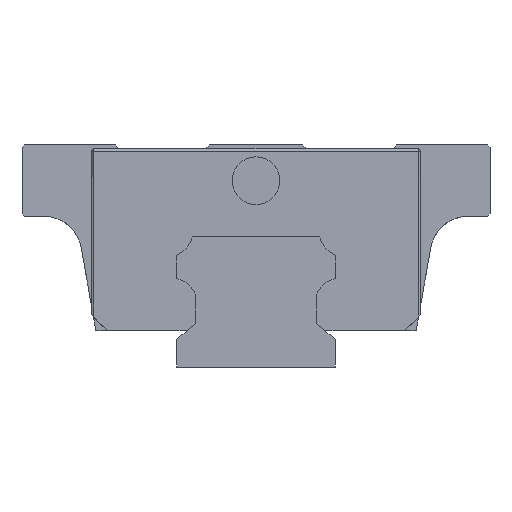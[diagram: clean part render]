
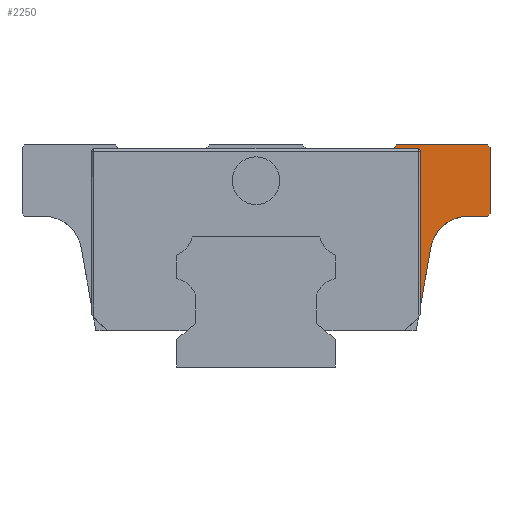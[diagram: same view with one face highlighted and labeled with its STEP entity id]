
A CAD part, left-side view. The second image highlights one B-rep face of the part: STEP entity #2250.
In plain terms, the highlighted planar face has unit normal (-1, 0, 0).
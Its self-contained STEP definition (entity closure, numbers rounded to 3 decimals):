
#41 = CARTESIAN_POINT ( 'NONE',  ( -23.35, -20.75, 7.78 ) ) ;
#90 = CARTESIAN_POINT ( 'NONE',  ( -23.35, -20.189, 4.6 ) ) ;
#135 = AXIS2_PLACEMENT_3D ( 'NONE', #570, #2914, #4098 ) ;
#137 = VECTOR ( 'NONE', #3779, 1000. ) ;
#488 = LINE ( 'NONE', #3536, #6977 ) ;
#507 = ORIENTED_EDGE ( 'NONE', *, *, #3790, .T. ) ;
#523 = ORIENTED_EDGE ( 'NONE', *, *, #4704, .T. ) ;
#565 = VECTOR ( 'NONE', #836, 1000. ) ;
#570 = CARTESIAN_POINT ( 'NONE',  ( -23.35, -26.714, 14.25 ) ) ;
#604 = VERTEX_POINT ( 'NONE', #4170 ) ;
#695 = ORIENTED_EDGE ( 'NONE', *, *, #5575, .T. ) ;
#764 = LINE ( 'NONE', #7234, #565 ) ;
#775 = LINE ( 'NONE', #90, #3517 ) ;
#777 = VERTEX_POINT ( 'NONE', #3179 ) ;
#836 = DIRECTION ( 'NONE',  ( 0., 0.643, -0.766 ) ) ;
#889 = ORIENTED_EDGE ( 'NONE', *, *, #7443, .T. ) ;
#937 = VECTOR ( 'NONE', #3905, 1000. ) ;
#966 = CARTESIAN_POINT ( 'NONE',  ( -23.35, -29.5, 28. ) ) ;
#1011 = ORIENTED_EDGE ( 'NONE', *, *, #3873, .T. ) ;
#1089 = DIRECTION ( 'NONE',  ( 0., -0.174, 0.985 ) ) ;
#1160 = ORIENTED_EDGE ( 'NONE', *, *, #5895, .F. ) ;
#1168 = EDGE_CURVE ( 'NONE', #1375, #7150, #2628, .T. ) ;
#1182 = CARTESIAN_POINT ( 'NONE',  ( -23.35, -17.28, 27.5 ) ) ;
#1259 = CARTESIAN_POINT ( 'NONE',  ( -23.35, -17.7, 28. ) ) ;
#1375 = VERTEX_POINT ( 'NONE', #41 ) ;
#1566 = CARTESIAN_POINT ( 'NONE',  ( -23.35, -29.205, 19. ) ) ;
#1632 = LINE ( 'NONE', #3224, #937 ) ;
#1821 = ORIENTED_EDGE ( 'NONE', *, *, #2142, .T. ) ;
#2005 = AXIS2_PLACEMENT_3D ( 'NONE', #4754, #4293, #3107 ) ;
#2110 = CARTESIAN_POINT ( 'NONE',  ( -23.35, -26.714, 19. ) ) ;
#2122 = VERTEX_POINT ( 'NONE', #1182 ) ;
#2142 = EDGE_CURVE ( 'NONE', #777, #5076, #2829, .T. ) ;
#2250 = ADVANCED_FACE ( 'NONE', ( #2451 ), #5441, .T. ) ;
#2268 = VECTOR ( 'NONE', #2959, 1000. ) ;
#2388 = VERTEX_POINT ( 'NONE', #6815 ) ;
#2451 = FACE_OUTER_BOUND ( 'NONE', #5754, .T. ) ;
#2539 = VERTEX_POINT ( 'NONE', #5124 ) ;
#2628 = LINE ( 'NONE', #5999, #137 ) ;
#2829 = CIRCLE ( 'NONE', #135, 4.75 ) ;
#2914 = DIRECTION ( 'NONE',  ( 1., 0., 0. ) ) ;
#2959 = DIRECTION ( 'NONE',  ( 0., 1., 0. ) ) ;
#2972 = EDGE_CURVE ( 'NONE', #604, #2539, #5453, .T. ) ;
#3033 = LINE ( 'NONE', #4174, #5205 ) ;
#3107 = DIRECTION ( 'NONE',  ( 0., 0., 1. ) ) ;
#3125 = CIRCLE ( 'NONE', #3976, 0.295 ) ;
#3179 = CARTESIAN_POINT ( 'NONE',  ( -23.35, -22.036, 15.075 ) ) ;
#3224 = CARTESIAN_POINT ( 'NONE',  ( -23.35, -22.728, 19. ) ) ;
#3245 = CARTESIAN_POINT ( 'NONE',  ( -23.35, -20.455, 27.205 ) ) ;
#3417 = EDGE_CURVE ( 'NONE', #7273, #7138, #488, .T. ) ;
#3463 = VERTEX_POINT ( 'NONE', #1259 ) ;
#3517 = VECTOR ( 'NONE', #1089, 1000. ) ;
#3536 = CARTESIAN_POINT ( 'NONE',  ( -23.35, -11.773, 1.568 ) ) ;
#3730 = DIRECTION ( 'NONE',  ( 0., 0.707, 0.707 ) ) ;
#3779 = DIRECTION ( 'NONE',  ( 0., 0., 1. ) ) ;
#3790 = EDGE_CURVE ( 'NONE', #3463, #2122, #764, .T. ) ;
#3873 = EDGE_CURVE ( 'NONE', #5076, #7273, #1632, .T. ) ;
#3905 = DIRECTION ( 'NONE',  ( 0., -1., 0. ) ) ;
#3976 = AXIS2_PLACEMENT_3D ( 'NONE', #3245, #6220, #7334 ) ;
#4045 = ORIENTED_EDGE ( 'NONE', *, *, #3417, .T. ) ;
#4098 = DIRECTION ( 'NONE',  ( 0., 0., 1. ) ) ;
#4170 = CARTESIAN_POINT ( 'NONE',  ( -23.35, -29.5, 27.705 ) ) ;
#4174 = CARTESIAN_POINT ( 'NONE',  ( -23.35, -29.5, 19. ) ) ;
#4293 = DIRECTION ( 'NONE',  ( -1., 0., 0. ) ) ;
#4704 = EDGE_CURVE ( 'NONE', #2539, #3463, #5003, .T. ) ;
#4754 = CARTESIAN_POINT ( 'NONE',  ( -23.35, -8.741, 4.6 ) ) ;
#4829 = ORIENTED_EDGE ( 'NONE', *, *, #1168, .F. ) ;
#4914 = CARTESIAN_POINT ( 'NONE',  ( -23.35, -29.5, 19.295 ) ) ;
#5003 = LINE ( 'NONE', #966, #6188 ) ;
#5076 = VERTEX_POINT ( 'NONE', #2110 ) ;
#5124 = CARTESIAN_POINT ( 'NONE',  ( -23.35, -29.205, 28. ) ) ;
#5205 = VECTOR ( 'NONE', #5286, 1000. ) ;
#5220 = LINE ( 'NONE', #5296, #2268 ) ;
#5286 = DIRECTION ( 'NONE',  ( 0., 0., 1. ) ) ;
#5296 = CARTESIAN_POINT ( 'NONE',  ( -23.35, -20.542, 27.5 ) ) ;
#5441 = PLANE ( 'NONE',  #2005 ) ;
#5453 = LINE ( 'NONE', #6640, #7231 ) ;
#5575 = EDGE_CURVE ( 'NONE', #1375, #777, #775, .T. ) ;
#5754 = EDGE_LOOP ( 'NONE', ( #507, #1160, #7380, #4829, #695, #1821, #1011, #4045, #889, #7464, #523 ) ) ;
#5895 = EDGE_CURVE ( 'NONE', #2388, #2122, #5220, .T. ) ;
#5999 = CARTESIAN_POINT ( 'NONE',  ( -23.35, -20.75, 6.6 ) ) ;
#6188 = VECTOR ( 'NONE', #6690, 1000. ) ;
#6220 = DIRECTION ( 'NONE',  ( 1., 0., 0. ) ) ;
#6474 = DIRECTION ( 'NONE',  ( 0., -0.707, 0.707 ) ) ;
#6609 = CARTESIAN_POINT ( 'NONE',  ( -23.35, -20.75, 27.205 ) ) ;
#6640 = CARTESIAN_POINT ( 'NONE',  ( -23.35, -30.673, 26.532 ) ) ;
#6690 = DIRECTION ( 'NONE',  ( 0., 1., 0. ) ) ;
#6792 = EDGE_CURVE ( 'NONE', #2388, #7150, #3125, .T. ) ;
#6815 = CARTESIAN_POINT ( 'NONE',  ( -23.35, -20.455, 27.5 ) ) ;
#6977 = VECTOR ( 'NONE', #6474, 1000. ) ;
#7138 = VERTEX_POINT ( 'NONE', #4914 ) ;
#7150 = VERTEX_POINT ( 'NONE', #6609 ) ;
#7231 = VECTOR ( 'NONE', #3730, 1000. ) ;
#7234 = CARTESIAN_POINT ( 'NONE',  ( -23.35, -17.7, 28. ) ) ;
#7273 = VERTEX_POINT ( 'NONE', #1566 ) ;
#7334 = DIRECTION ( 'NONE',  ( 0., 0., 1. ) ) ;
#7380 = ORIENTED_EDGE ( 'NONE', *, *, #6792, .T. ) ;
#7443 = EDGE_CURVE ( 'NONE', #7138, #604, #3033, .T. ) ;
#7464 = ORIENTED_EDGE ( 'NONE', *, *, #2972, .T. ) ;
